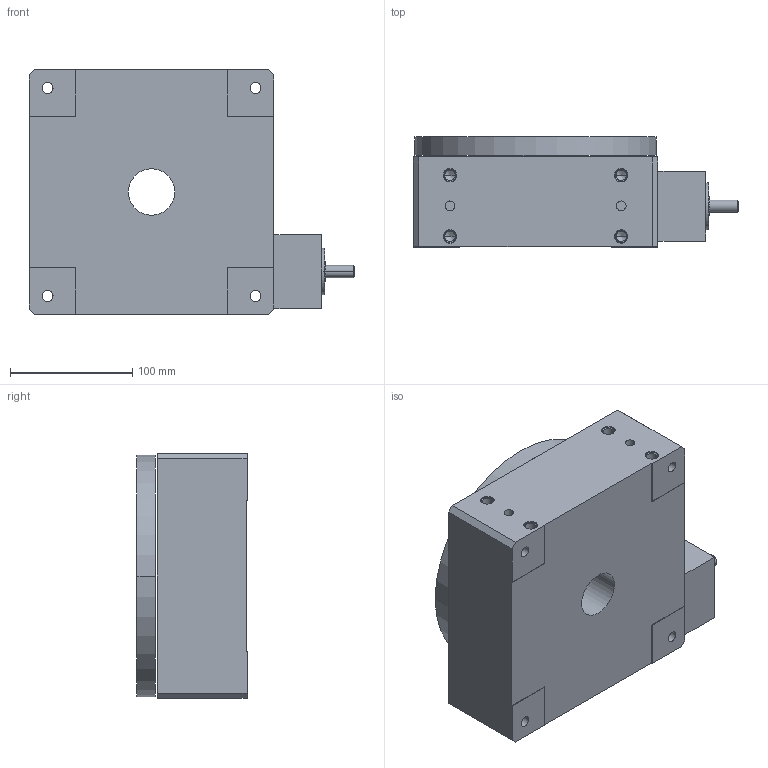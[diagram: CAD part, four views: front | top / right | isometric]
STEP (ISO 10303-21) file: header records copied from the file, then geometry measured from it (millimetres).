
FILE_DESCRIPTION((''),'2;1');
FILE_NAME('R200M7M00E0_ASM','2009-07-02T',('FK20128'),(''),'PRO/ENGINEER BY PARAMETRIC TECHNOLOGY CORPORATION, 2006200','PRO/ENGINEER BY PARAMETRIC TECHNOLOGY CORPORATION, 2006200','');
FILE_SCHEMA(('CONFIG_CONTROL_DESIGN'));
Length unit declared in the file: millimetre
Products named in the file (2): R200M; R200M7M00E0_ASM
Assembly tree (1 placements, depth 2):
  R200M7M00E0_ASM
    R200M
Bounding box: 266.09 x 90 x 200 mm (x, y, z)
Volume: 3381637.8 mm3; surface area: 243795.6 mm2
Topology: 2 solids, 18 shells, 216 faces, 540 edges, 346 vertices
Faces by surface type: cylinder 112, plane 62, cone 42
Entity records: 6456 total; most frequent: DIRECTION 1232, CARTESIAN_POINT 1075, ORIENTED_EDGE 952, EDGE_CURVE 508, AXIS2_PLACEMENT_3D 503, VERTEX_POINT 346, EDGE_LOOP 294, CIRCLE 282
